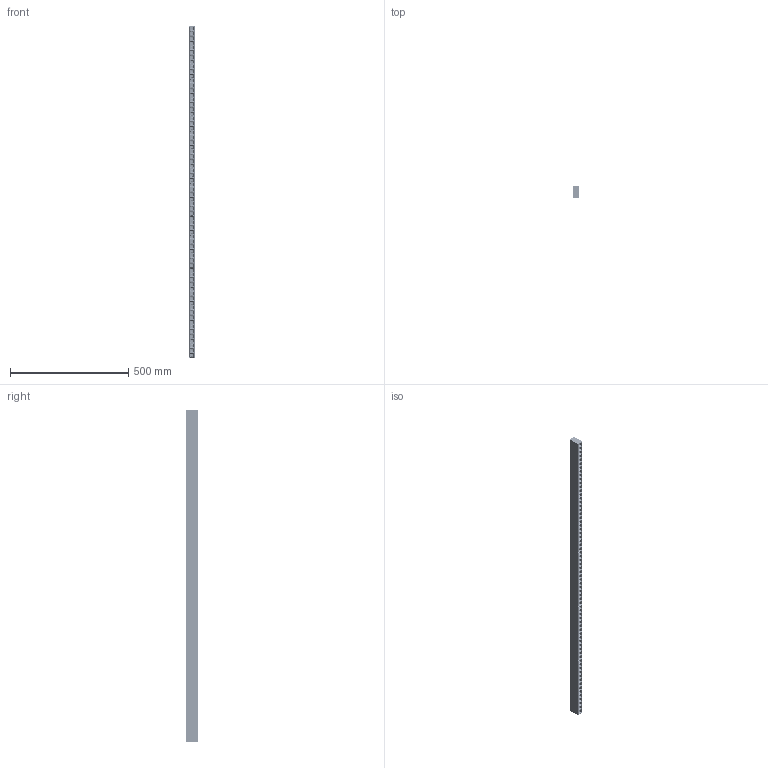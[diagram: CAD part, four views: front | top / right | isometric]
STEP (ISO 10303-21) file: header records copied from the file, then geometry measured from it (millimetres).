
FILE_DESCRIPTION (( 'STEP AP203' ), '1' );
FILE_NAME ('Zirkol L Plafone UGR.STEP', '2022-01-24T10:00:16', ( '' ), ( '' ), 'SwSTEP 2.0', 'SolidWorks 2016', '' );
FILE_SCHEMA (( 'CONFIG_CONTROL_DESIGN' ));
Products named in the file (14): CN17036_DAISY-MINI-W_Mechanical model.stp; Estruso; 1-MAS-0382-0-00; F17028.stp; molla DEFINITIVA walkline stampata 3D; Zirkol L Plafone UGR; morsettiera base; DAISY-MINI_PCB_DRAWING_1_LED.stp; 6-SLK-0003-0-00 (1); Alimentatore Slim cinese; CN17036_DAISY-MINI-W_Mechanical model; morsettiera coperchio; LM28xB Series.stp; C170929.stp
Assembly tree (20 placements, depth 4):
  Zirkol L Plafone UGR
    Estruso
    6-SLK-0003-0-00 (1)  x2
    CN17036_DAISY-MINI-W_Mechanical model  x5
      CN17036_DAISY-MINI-W_Mechanical model.stp
        DAISY-MINI_PCB_DRAWING_1_LED.stp
        LM28xB Series.stp
        F17028.stp
        C170929.stp
    molla DEFINITIVA walkline stampata 3D  x2
    morsettiera base
    Alimentatore Slim cinese
    morsettiera coperchio
    1-MAS-0382-0-00  x2
Bounding box: 26.5 x 50.29 x 1402.5 mm (x, y, z)
Volume: 738319.8 mm3; surface area: 741972.7 mm2
Topology: 255 solids, 255 shells, 37953 faces, 98908 edges, 61354 vertices
Faces by surface type: plane 14348, bspline 13077, cylinder 7804, cone 2724
Entity records: 422282 total; most frequent: CARTESIAN_POINT 252110, ORIENTED_EDGE 40772, DIRECTION 25781, EDGE_CURVE 20386, VERTEX_POINT 12759, VECTOR 10313, LINE 10313, EDGE_LOOP 8049
